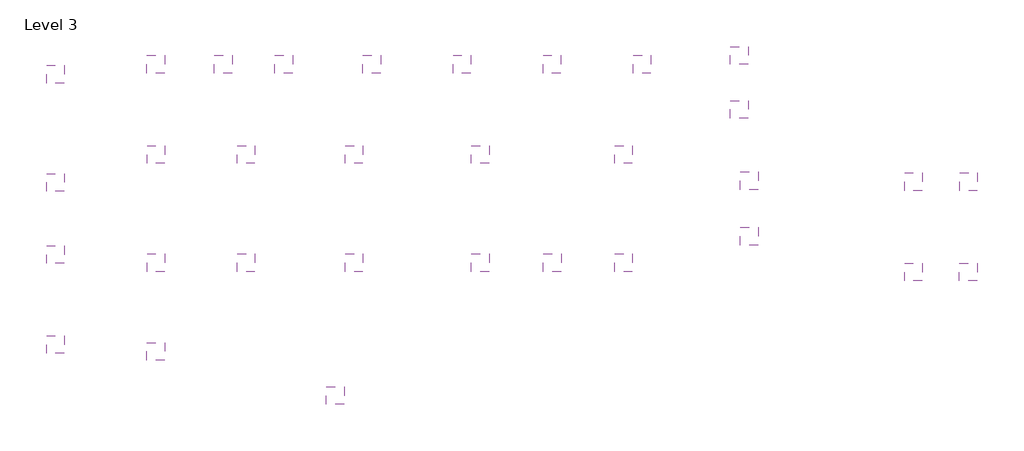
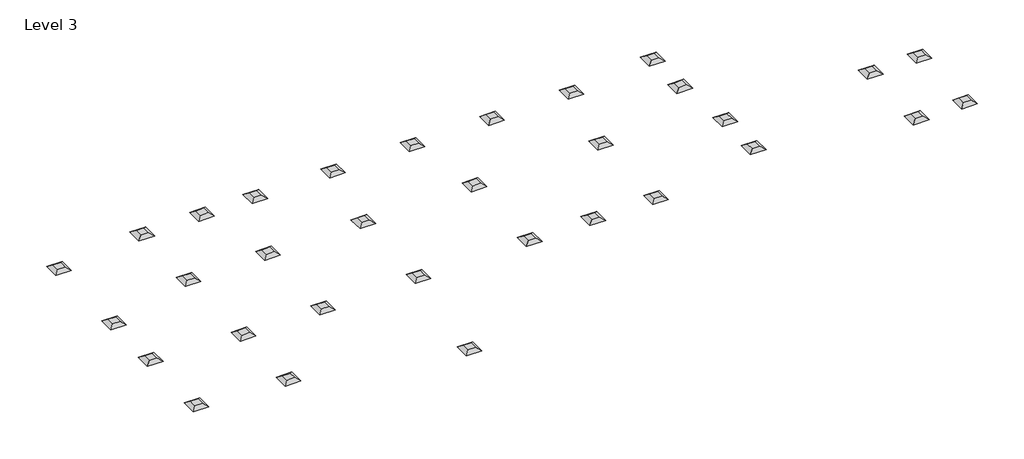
# One storey: 32 air terminals.
"""IFC4 building model written with IfcOpenShell, lengths in millimetres."""

import ifcopenshell
import ifcopenshell.guid

model = None  # the IFC model being written
_history = None  # IfcOwnerHistory: only IFC2X3 demands one
_inside = {}  # id of a spatial element -> (the spatial element, [elements in it])
_under = {}  # id of a project, library or spatial element -> (it, [spatial elements below it])
_declared = {}  # id of a project -> (the project, [libraries it declares])
_typed = {}  # id of a type object -> (the type object, [elements of that type])
_made_of = {}  # id of a material, layer set ... -> (it, [elements and type objects made of it])


def new_model(schema):
    """Start an empty IFC model of exactly this schema.

    Asked for "IFC4X3", IfcOpenShell would pick the latest addendum, in which some entities
    have other attributes; the version numbers below select the first issue.
    IFC2X3 requires an IfcOwnerHistory on every rooted entity: one is made here for all.
    """
    global model, _history
    if schema == "IFC4X3":
        model = ifcopenshell.file(schema_version=(4, 3, 0, 0))
    else:
        model = ifcopenshell.file(schema=schema)
    _inside.clear()
    _under.clear()
    _declared.clear()
    _typed.clear()
    _made_of.clear()
    _history = None
    if model.schema == "IFC2X3":
        org = make("IfcOrganization", Name="unknown")
        user = make(
            "IfcPersonAndOrganization",
            ThePerson=make("IfcPerson", FamilyName="unknown"),
            TheOrganization=org,
        )
        app = make(
            "IfcApplication",
            ApplicationDeveloper=org,
            Version="unknown",
            ApplicationFullName="unknown",
            ApplicationIdentifier="unknown",
        )
        _history = make(
            "IfcOwnerHistory",
            OwningUser=user,
            OwningApplication=app,
            ChangeAction="ADDED",
            CreationDate=0,
        )
    return model


def make(cls, **values):
    """One entity of the class cls with the attributes given. An attribute that is None is left unset."""
    return model.create_entity(
        cls, **{name: value for name, value in values.items() if value is not None}
    )


def rooted(cls, **values):
    """An entity with a GlobalId (a new one), such as an element, a storey or a relation."""
    return make(cls, GlobalId=ifcopenshell.guid.new(), OwnerHistory=_history, **values)


def si_unit(unit_type, name, prefix=None):
    """IfcSIUnit, for example si_unit("LENGTHUNIT", "METRE", prefix="MILLI")."""
    return make("IfcSIUnit", UnitType=unit_type, Prefix=prefix, Name=name)


def assignment(units):
    """IfcUnitAssignment: the units of a project."""
    return None if units is None else make("IfcUnitAssignment", Units=units)


def point(xyz):
    """IfcCartesianPoint."""
    return None if xyz is None else make("IfcCartesianPoint", Coordinates=xyz)


def direction(xyz):
    """IfcDirection."""
    return None if xyz is None else make("IfcDirection", DirectionRatios=xyz)


def frame(location, z_axis=None, x_axis=None):
    """IfcAxis2Placement3D, a coordinate frame: its origin and axes. An axis left out is left unset."""
    return make(
        "IfcAxis2Placement3D",
        Location=point(location),
        Axis=direction(z_axis),
        RefDirection=direction(x_axis),
    )


def origin():
    """The frame at (0, 0, 0) with its axes left unset."""
    return frame((0.0, 0.0, 0.0))


def place(relative_to, where):
    """IfcLocalPlacement: puts the frame where relative to a parent placement (None: the world)."""
    return make(
        "IfcLocalPlacement", PlacementRelTo=relative_to, RelativePlacement=where
    )


def context(
    kind, dimensions, precision=None, world=None, true_north=None, identifier=None
):
    """IfcGeometricRepresentationContext, for example the 3D "Model" context."""
    return make(
        "IfcGeometricRepresentationContext",
        ContextIdentifier=identifier,
        ContextType=kind,
        CoordinateSpaceDimension=dimensions,
        Precision=precision,
        WorldCoordinateSystem=world,
        TrueNorth=true_north,
    )


def project(units=None, contexts=None):
    """IfcProject with its units and contexts."""
    return rooted(
        "IfcProject",
        Name="project",
        RepresentationContexts=contexts,
        UnitsInContext=assignment(units),
    )


def spatial(cls, under=None, at=None, **own):
    """A site, building, storey or space (cls), placed at a placement, below another one or the project."""
    s = rooted(cls, ObjectPlacement=at, **own)
    if under is not None:
        _under.setdefault(under.id(), (under, []))[1].append(s)
    return s


def faces_of(points, faces, orient=None, outer=None):
    """IfcFace entities. A face is a list of loops; a loop is a list of indices into points, from 0.

    orient and outer hold one flag for each loop. By default every Orientation is true, the
    first loop of a face is its IfcFaceOuterBound and the others are IfcFaceBound.
    """
    made = []
    for i, loops in enumerate(faces):
        bounds = []
        for j, loop in enumerate(loops):
            is_outer = j == 0 if outer is None else outer[i][j]
            bounds.append(
                make(
                    "IfcFaceOuterBound" if is_outer else "IfcFaceBound",
                    Bound=make("IfcPolyLoop", Polygon=[points[k] for k in loop]),
                    Orientation=True if orient is None else orient[i][j],
                )
            )
        made.append(make("IfcFace", Bounds=bounds))
    return made


def faceted_brep(points, faces, orient=None, outer=None, voids=None):
    """IfcFacetedBrep: a solid bounded by flat faces; with voids (closed shells), ...WithVoids."""
    shared = [point(p) for p in points]
    hull = make("IfcClosedShell", CfsFaces=faces_of(shared, faces, orient, outer))
    if voids is None:
        return make("IfcFacetedBrep", Outer=hull)
    return make(
        "IfcFacetedBrepWithVoids",
        Outer=hull,
        Voids=[
            make(cls, CfsFaces=faces_of(shared, fs, o, b)) for cls, fs, o, b in voids
        ],
    )


def shape(context_of_items, identifier, shape_type, items):
    """IfcShapeRepresentation: the items that make up one representation, for example the "Body"."""
    return make(
        "IfcShapeRepresentation",
        ContextOfItems=context_of_items,
        RepresentationIdentifier=identifier,
        RepresentationType=shape_type,
        Items=items,
    )


def source(mapping_origin, context_of_items, identifier, shape_type, items):
    """IfcRepresentationMap: a shape defined once, which mapped items show again and again."""
    return make(
        "IfcRepresentationMap",
        MappingOrigin=mapping_origin,
        MappedRepresentation=shape(context_of_items, identifier, shape_type, items),
    )


def transform(
    local_origin,
    x_axis=None,
    y_axis=None,
    z_axis=None,
    scale=None,
    scale2=None,
    scale3=None,
    uniform=True,
):
    """IfcCartesianTransformationOperator3D, or its non-uniform kind. x_axis, y_axis, z_axis: its Axis1, 2, 3."""
    if uniform:
        return make(
            "IfcCartesianTransformationOperator3D",
            Axis1=direction(x_axis),
            Axis2=direction(y_axis),
            LocalOrigin=point(local_origin),
            Scale=scale,
            Axis3=direction(z_axis),
        )
    return make(
        "IfcCartesianTransformationOperator3DnonUniform",
        Axis1=direction(x_axis),
        Axis2=direction(y_axis),
        LocalOrigin=point(local_origin),
        Scale=scale,
        Axis3=direction(z_axis),
        Scale2=scale2,
        Scale3=scale3,
    )


def mapped(mapping_source, mapping_target):
    """IfcMappedItem: shows the shape of a source again, moved by a transform."""
    return make(
        "IfcMappedItem", MappingSource=mapping_source, MappingTarget=mapping_target
    )


def made_of(thing, what):
    """Note that an element or type object is made of a material, layer set ...; save() writes the relation."""
    if what is not None:
        _made_of.setdefault(what.id(), (what, []))[1].append(thing)
    return thing


def element(
    cls,
    number,
    at=None,
    inside=None,
    cuts=None,
    type_object=None,
    material=None,
    context=None,
    identifier="Body",
    shape_type=None,
    held_by="IfcProductDefinitionShape",
    body=None,
    shapes=None,
    **own,
):
    """One element of the class cls, such as IfcWall. Its Tag is "e" and its number.

    at: its placement. inside: the storey or other place that contains it. cuts: it is an
    opening in that element (IfcRelVoidsElement). A single representation is given by context,
    identifier, shape_type and body (its items); several are given by shapes. held_by: the class
    of the entity that holds the representations. save() writes the other relations.
    """
    e = rooted(cls, Tag="e%d" % number, ObjectPlacement=at, **own)
    if body is not None:
        shapes = [shape(context, identifier, shape_type, body)]
    if shapes is not None:
        e.Representation = make(held_by, Representations=shapes)
    if inside is not None:
        _inside.setdefault(inside.id(), (inside, []))[1].append(e)
    if cuts is not None:
        rooted(
            "IfcRelVoidsElement", RelatingBuildingElement=cuts, RelatedOpeningElement=e
        )
    if type_object is not None:
        _typed.setdefault(type_object.id(), (type_object, []))[1].append(e)
    return made_of(e, material)


def aggregate(whole, parts):
    """IfcRelAggregates: a whole, such as a stair, and the parts it consists of."""
    return rooted("IfcRelAggregates", RelatingObject=whole, RelatedObjects=parts)


def save(model, path):
    """Write the relations noted so far, then the file.

    IfcRelAggregates (storeys below a building ...), IfcRelContainedInSpatialStructure (elements
    in a storey), IfcRelDefinesByType, IfcRelAssociatesMaterial and IfcRelDeclares: one each for
    every whole, place, type object, material and project.
    """
    for whole, parts in _under.values():
        aggregate(whole, parts)
    for where, things in _inside.values():
        rooted(
            "IfcRelContainedInSpatialStructure",
            RelatedElements=things,
            RelatingStructure=where,
        )
    for kind, things in _typed.values():
        rooted("IfcRelDefinesByType", RelatedObjects=things, RelatingType=kind)
    for what, things in _made_of.values():
        rooted("IfcRelAssociatesMaterial", RelatedObjects=things, RelatingMaterial=what)
    for by, libraries in _declared.values():
        rooted("IfcRelDeclares", RelatingContext=by, RelatedDefinitions=libraries)
    model.write(path)


def m_return_diffuser_hosted_workplane_based_return_diffuser_735a5a32(model_context):
    return source(origin(), model_context, "Body", "Brep", [
        faceted_brep([(300.0, 300.0, 0.0), (-300.0, 300.0, 0.0), (-300.0, -300.0, 0.0), (300.0, -300.0, 0.0), (150.0, 150.0, -101.8523776), (150.0, -150.0, -101.8523776), (-150.0, -150.0, -101.8523776), (-150.0, 150.0, -101.8523776)], [[[0, 1, 2, 3]], [[4, 5, 6, 7]], [[4, 7, 1, 0]], [[7, 6, 2, 1]], [[6, 5, 3, 2]], [[5, 4, 0, 3]]]),
    ])


model = new_model("IFC4")

# Units and contexts
model_context = context("Model", 3, world=origin())
ifc_project = project(units=[si_unit("LENGTHUNIT", "METRE", prefix="MILLI")], contexts=[model_context])

# Site, building, storey
site = spatial("IfcSite", under=ifc_project)
building = spatial("IfcBuilding", under=site)
storey = spatial("IfcBuildingStorey", under=building, Name="Level 3", Elevation=0.0)

# Air terminals
placement = place(None, origin())
m_return_diffuser_hosted_workplane_based_return_diffuser_shape = m_return_diffuser_hosted_workplane_based_return_diffuser_735a5a32(model_context)
element("IfcAirTerminal", 1, ObjectType="M_Return Diffuser - Hosted : Workplane-based Return Diffuser", at=placement, inside=storey, context=model_context, shape_type="MappedRepresentation", body=[
    mapped(m_return_diffuser_hosted_workplane_based_return_diffuser_shape, transform((-12381.618635, 7275.1852852, 2514.6), x_axis=(0.0, -1.0, 0.0), y_axis=(-1.0, 0.0, 0.0), z_axis=(0.0, 0.0, -1.0))),
])
element("IfcAirTerminal", 2, ObjectType="M_Return Diffuser - Hosted : Workplane-based Return Diffuser", at=placement, inside=storey, context=model_context, shape_type="MappedRepresentation", body=[
    mapped(m_return_diffuser_hosted_workplane_based_return_diffuser_shape, transform((-12381.618635, -2438.9721112, 2514.6), x_axis=(0.0, -1.0, 0.0), y_axis=(-1.0, 0.0, 0.0), z_axis=(0.0, 0.0, -1.0))),
])
element("IfcAirTerminal", 3, ObjectType="M_Return Diffuser - Hosted : Workplane-based Return Diffuser", at=placement, inside=storey, context=model_context, shape_type="MappedRepresentation", body=[
    mapped(m_return_diffuser_hosted_workplane_based_return_diffuser_shape, transform((15123.6906758, 3301.9542423, 2514.6), x_axis=(0.0, -1.0, 0.0), y_axis=(-1.0, 0.0, 0.0), z_axis=(0.0, 0.0, -1.0))),
])
element("IfcAirTerminal", 4, ObjectType="M_Return Diffuser - Hosted : Workplane-based Return Diffuser", at=placement, inside=storey, context=model_context, shape_type="MappedRepresentation", body=[
    mapped(m_return_diffuser_hosted_workplane_based_return_diffuser_shape, transform((-10095.618635, 7275.1852852, 2514.6), x_axis=(0.0, -1.0, 0.0), y_axis=(-1.0, 0.0, 0.0), z_axis=(0.0, 0.0, -1.0))),
])
element("IfcAirTerminal", 5, ObjectType="M_Return Diffuser - Hosted : Workplane-based Return Diffuser", at=placement, inside=storey, context=model_context, shape_type="MappedRepresentation", body=[
    mapped(m_return_diffuser_hosted_workplane_based_return_diffuser_shape, transform((1038.3901612, 566.5183902, 2514.6), x_axis=(-1.0, 0.0, 0.0), y_axis=(0.0, 1.0, 0.0), z_axis=(0.0, 0.0, -1.0))),
])
element("IfcAirTerminal", 6, ObjectType="M_Supply Diffuser - Hosted : Workplane-based Supply Diffuser", at=placement, inside=storey, context=model_context, shape_type="MappedRepresentation", body=[
    mapped(m_return_diffuser_hosted_workplane_based_return_diffuser_shape, transform((-15774.5706669, 3279.4578296, 2514.6), x_axis=(-1.0, 0.0, 0.0), y_axis=(0.0, 1.0, 0.0), z_axis=(0.0, 0.0, -1.0))),
])
element("IfcAirTerminal", 7, ObjectType="M_Supply Diffuser - Hosted : Workplane-based Supply Diffuser", at=placement, inside=storey, context=model_context, shape_type="MappedRepresentation", body=[
    mapped(m_return_diffuser_hosted_workplane_based_return_diffuser_shape, transform((-15774.5706669, 841.0578296, 2514.6), x_axis=(-1.0, 0.0, 0.0), y_axis=(0.0, 1.0, 0.0), z_axis=(0.0, 0.0, -1.0))),
])
element("IfcAirTerminal", 8, ObjectType="M_Supply Diffuser - Hosted : Workplane-based Supply Diffuser", at=placement, inside=storey, context=model_context, shape_type="MappedRepresentation", body=[
    mapped(m_return_diffuser_hosted_workplane_based_return_diffuser_shape, transform((-15774.5706669, -2206.9421704, 2514.6), x_axis=(-1.0, 0.0, 0.0), y_axis=(0.0, 1.0, 0.0), z_axis=(0.0, 0.0, -1.0))),
])
element("IfcAirTerminal", 9, ObjectType="M_Supply Diffuser - Hosted : Workplane-based Supply Diffuser", at=placement, inside=storey, context=model_context, shape_type="MappedRepresentation", body=[
    mapped(m_return_diffuser_hosted_workplane_based_return_diffuser_shape, transform((-5068.137216, 7275.1852852, 2514.6), x_axis=(0.0, -1.0, 0.0), y_axis=(-1.0, 0.0, 0.0), z_axis=(0.0, 0.0, -1.0))),
])
element("IfcAirTerminal", 10, ObjectType="M_Supply Diffuser - Hosted : Workplane-based Supply Diffuser", at=placement, inside=storey, context=model_context, shape_type="MappedRepresentation", body=[
    mapped(m_return_diffuser_hosted_workplane_based_return_diffuser_shape, transform((-9324.8098388, 4224.1183902, 2514.6), x_axis=(-1.0, 0.0, 0.0), y_axis=(0.0, 1.0, 0.0), z_axis=(0.0, 0.0, -1.0))),
])
element("IfcAirTerminal", 11, ObjectType="M_Supply Diffuser - Hosted : Workplane-based Supply Diffuser", at=placement, inside=storey, context=model_context, shape_type="MappedRepresentation", body=[
    mapped(m_return_diffuser_hosted_workplane_based_return_diffuser_shape, transform((-5667.2098388, 4224.1183902, 2514.6), x_axis=(-1.0, 0.0, 0.0), y_axis=(0.0, 1.0, 0.0), z_axis=(0.0, 0.0, -1.0))),
])
element("IfcAirTerminal", 12, ObjectType="M_Supply Diffuser - Hosted : Workplane-based Supply Diffuser", at=placement, inside=storey, context=model_context, shape_type="MappedRepresentation", body=[
    mapped(m_return_diffuser_hosted_workplane_based_return_diffuser_shape, transform((-1400.0098388, 4224.1183902, 2514.6), x_axis=(-1.0, 0.0, 0.0), y_axis=(0.0, 1.0, 0.0), z_axis=(0.0, 0.0, -1.0))),
])
element("IfcAirTerminal", 13, ObjectType="M_Supply Diffuser - Hosted : Workplane-based Supply Diffuser", at=placement, inside=storey, context=model_context, shape_type="MappedRepresentation", body=[
    mapped(m_return_diffuser_hosted_workplane_based_return_diffuser_shape, transform((3448.0317005, 4224.1183902, 2514.6), x_axis=(-1.0, 0.0, 0.0), y_axis=(0.0, 1.0, 0.0), z_axis=(0.0, 0.0, -1.0))),
])
element("IfcAirTerminal", 14, ObjectType="M_Supply Diffuser - Hosted : Workplane-based Supply Diffuser", at=placement, inside=storey, context=model_context, shape_type="MappedRepresentation", body=[
    mapped(m_return_diffuser_hosted_workplane_based_return_diffuser_shape, transform((-9324.8098388, 566.5183902, 2514.6), x_axis=(-1.0, 0.0, 0.0), y_axis=(0.0, 1.0, 0.0), z_axis=(0.0, 0.0, -1.0))),
])
element("IfcAirTerminal", 15, ObjectType="M_Supply Diffuser - Hosted : Workplane-based Supply Diffuser", at=placement, inside=storey, context=model_context, shape_type="MappedRepresentation", body=[
    mapped(m_return_diffuser_hosted_workplane_based_return_diffuser_shape, transform((-5667.2098388, 566.5183902, 2514.6), x_axis=(-1.0, 0.0, 0.0), y_axis=(0.0, 1.0, 0.0), z_axis=(0.0, 0.0, -1.0))),
])
element("IfcAirTerminal", 16, ObjectType="M_Supply Diffuser - Hosted : Workplane-based Supply Diffuser", at=placement, inside=storey, context=model_context, shape_type="MappedRepresentation", body=[
    mapped(m_return_diffuser_hosted_workplane_based_return_diffuser_shape, transform((-1400.0098388, 566.5183902, 2514.6), x_axis=(-1.0, 0.0, 0.0), y_axis=(0.0, 1.0, 0.0), z_axis=(0.0, 0.0, -1.0))),
])
element("IfcAirTerminal", 17, ObjectType="M_Supply Diffuser - Hosted : Workplane-based Supply Diffuser", at=placement, inside=storey, context=model_context, shape_type="MappedRepresentation", body=[
    mapped(m_return_diffuser_hosted_workplane_based_return_diffuser_shape, transform((3448.0317005, 566.5183902, 2514.6), x_axis=(-1.0, 0.0, 0.0), y_axis=(0.0, 1.0, 0.0), z_axis=(0.0, 0.0, -1.0))),
])
element("IfcAirTerminal", 18, ObjectType="M_Supply Diffuser - Hosted : Workplane-based Supply Diffuser", at=placement, inside=storey, context=model_context, shape_type="MappedRepresentation", body=[
    mapped(m_return_diffuser_hosted_workplane_based_return_diffuser_shape, transform((-12372.8098388, 4224.1183902, 2514.6), x_axis=(-1.0, 0.0, 0.0), y_axis=(0.0, 1.0, 0.0), z_axis=(0.0, 0.0, -1.0))),
])
element("IfcAirTerminal", 19, ObjectType="M_Supply Diffuser - Hosted : Workplane-based Supply Diffuser", at=placement, inside=storey, context=model_context, shape_type="MappedRepresentation", body=[
    mapped(m_return_diffuser_hosted_workplane_based_return_diffuser_shape, transform((-12372.8098388, 566.5183902, 2514.6), x_axis=(-1.0, 0.0, 0.0), y_axis=(0.0, 1.0, 0.0), z_axis=(0.0, 0.0, -1.0))),
])
element("IfcAirTerminal", 20, ObjectType="M_Supply Diffuser - Hosted : Workplane-based Supply Diffuser", at=placement, inside=storey, context=model_context, shape_type="MappedRepresentation", body=[
    mapped(m_return_diffuser_hosted_workplane_based_return_diffuser_shape, transform((-8047.5983438, 7275.1852852, 2514.6), x_axis=(0.0, -1.0, 0.0), y_axis=(-1.0, 0.0, 0.0), z_axis=(0.0, 0.0, -1.0))),
])
element("IfcAirTerminal", 21, ObjectType="M_Supply Diffuser - Hosted : Workplane-based Supply Diffuser", at=placement, inside=storey, context=model_context, shape_type="MappedRepresentation", body=[
    mapped(m_return_diffuser_hosted_workplane_based_return_diffuser_shape, transform((-2020.137216, 7275.1852852, 2514.6), x_axis=(0.0, -1.0, 0.0), y_axis=(-1.0, 0.0, 0.0), z_axis=(0.0, 0.0, -1.0))),
])
element("IfcAirTerminal", 22, ObjectType="M_Supply Diffuser - Hosted : Workplane-based Supply Diffuser", at=placement, inside=storey, context=model_context, shape_type="MappedRepresentation", body=[
    mapped(m_return_diffuser_hosted_workplane_based_return_diffuser_shape, transform((1027.862784, 7275.1852852, 2514.6), x_axis=(0.0, -1.0, 0.0), y_axis=(-1.0, 0.0, 0.0), z_axis=(0.0, 0.0, -1.0))),
])
element("IfcAirTerminal", 23, ObjectType="M_Supply Diffuser - Hosted : Workplane-based Supply Diffuser", at=placement, inside=storey, context=model_context, shape_type="MappedRepresentation", body=[
    mapped(m_return_diffuser_hosted_workplane_based_return_diffuser_shape, transform((4075.862784, 7275.1852852, 2514.6), x_axis=(0.0, -1.0, 0.0), y_axis=(-1.0, 0.0, 0.0), z_axis=(0.0, 0.0, -1.0))),
])
element("IfcAirTerminal", 24, ObjectType="M_Supply Diffuser - Hosted : Workplane-based Supply Diffuser", at=placement, inside=storey, context=model_context, shape_type="MappedRepresentation", body=[
    mapped(m_return_diffuser_hosted_workplane_based_return_diffuser_shape, transform((-6305.1010065, -3929.7829381, 2514.6), x_axis=(-1.0, 0.0, 0.0), y_axis=(0.0, 1.0, 0.0), z_axis=(0.0, 0.0, -1.0))),
])
element("IfcAirTerminal", 25, ObjectType="M_Supply Diffuser - Hosted : Workplane-based Supply Diffuser", at=placement, inside=storey, context=model_context, shape_type="MappedRepresentation", body=[
    mapped(m_return_diffuser_hosted_workplane_based_return_diffuser_shape, transform((7365.4328492, 7578.0720568, 2514.6), x_axis=(0.0, -1.0, 0.0), y_axis=(-1.0, 0.0, 0.0), z_axis=(0.0, 0.0, -1.0))),
])
element("IfcAirTerminal", 26, ObjectType="M_Supply Diffuser - Hosted : Workplane-based Supply Diffuser", at=placement, inside=storey, context=model_context, shape_type="MappedRepresentation", body=[
    mapped(m_return_diffuser_hosted_workplane_based_return_diffuser_shape, transform((7365.4328492, 5749.2720568, 2514.6), x_axis=(0.0, -1.0, 0.0), y_axis=(-1.0, 0.0, 0.0), z_axis=(0.0, 0.0, -1.0))),
])
element("IfcAirTerminal", 27, ObjectType="M_Supply Diffuser - Hosted : Workplane-based Supply Diffuser", at=placement, inside=storey, context=model_context, shape_type="MappedRepresentation", body=[
    mapped(m_return_diffuser_hosted_workplane_based_return_diffuser_shape, transform((7703.723758, 3340.9391162, 2514.6), x_axis=(-1.0, 0.0, 0.0), y_axis=(0.0, 1.0, 0.0), z_axis=(0.0, 0.0, -1.0))),
])
element("IfcAirTerminal", 28, ObjectType="M_Supply Diffuser - Hosted : Workplane-based Supply Diffuser", at=placement, inside=storey, context=model_context, shape_type="MappedRepresentation", body=[
    mapped(m_return_diffuser_hosted_workplane_based_return_diffuser_shape, transform((7703.723758, 1458.8187024, 2514.6), x_axis=(-1.0, 0.0, 0.0), y_axis=(0.0, 1.0, 0.0), z_axis=(0.0, 0.0, -1.0))),
])
element("IfcAirTerminal", 29, ObjectType="M_Supply Diffuser - Hosted : Workplane-based Supply Diffuser", at=placement, inside=storey, context=model_context, shape_type="MappedRepresentation", body=[
    mapped(m_return_diffuser_hosted_workplane_based_return_diffuser_shape, transform((13257.3202468, 3300.2909567, 2514.6), x_axis=(-1.0, 0.0, 0.0), y_axis=(0.0, 1.0, 0.0), z_axis=(0.0, 0.0, -1.0))),
])
element("IfcAirTerminal", 30, ObjectType="M_Supply Diffuser - Hosted : Workplane-based Supply Diffuser", at=placement, inside=storey, context=model_context, shape_type="MappedRepresentation", body=[
    mapped(m_return_diffuser_hosted_workplane_based_return_diffuser_shape, transform((13257.3202468, 246.573539, 2514.6), x_axis=(-1.0, 0.0, 0.0), y_axis=(0.0, 1.0, 0.0), z_axis=(0.0, 0.0, -1.0))),
])
element("IfcAirTerminal", 31, ObjectType="M_Supply Diffuser - Hosted : Workplane-based Supply Diffuser", at=placement, inside=storey, context=model_context, shape_type="MappedRepresentation", body=[
    mapped(m_return_diffuser_hosted_workplane_based_return_diffuser_shape, transform((15111.5406457, 246.573539, 2514.6), x_axis=(-1.0, 0.0, 0.0), y_axis=(0.0, 1.0, 0.0), z_axis=(0.0, 0.0, -1.0))),
])
element("IfcAirTerminal", 32, ObjectType="M_Supply Diffuser - Hosted : Workplane-based Supply Diffuser", at=placement, inside=storey, context=model_context, shape_type="MappedRepresentation", body=[
    mapped(m_return_diffuser_hosted_workplane_based_return_diffuser_shape, transform((-15774.5706669, 6937.0578296, 2514.6), x_axis=(-1.0, 0.0, 0.0), y_axis=(0.0, 1.0, 0.0), z_axis=(0.0, 0.0, -1.0))),
])

save(model, "model.ifc")
